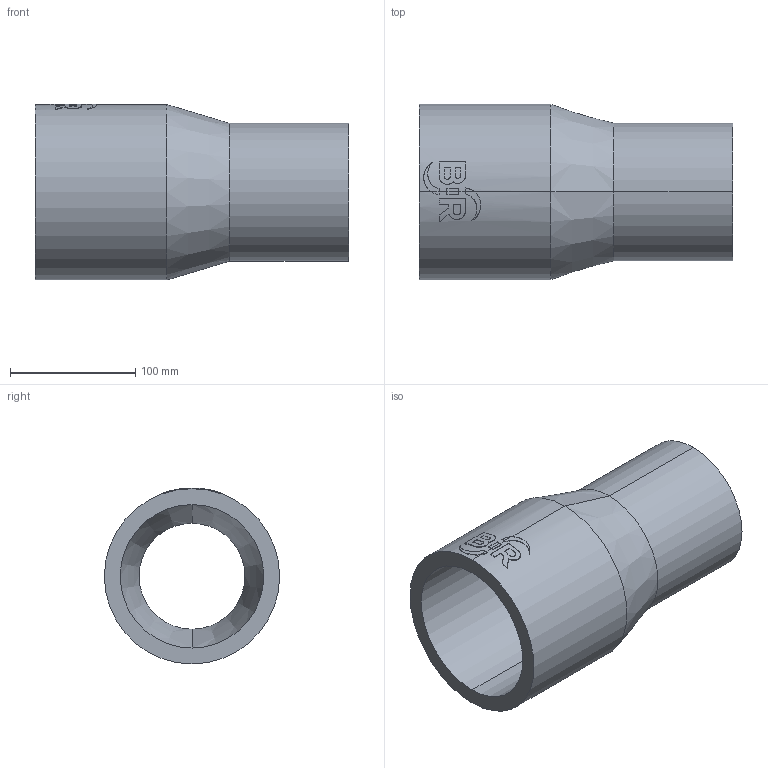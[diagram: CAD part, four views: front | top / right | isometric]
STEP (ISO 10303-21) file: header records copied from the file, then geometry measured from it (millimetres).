
FILE_DESCRIPTION (( 'STEP AP214' ), '1' );
FILE_NAME ('2323161415.STEP', '2018-07-20T10:18:44', ( '' ), ( '' ), 'SwSTEP 2.0', 'SolidWorks 2017', '' );
FILE_SCHEMA (( 'AUTOMOTIVE_DESIGN' ));
Length unit declared in the file: millimetre
Products named in the file (1): 2323161415
Bounding box: 250 x 140 x 140.46 mm (x, y, z)
Volume: 1135234.9 mm3; surface area: 187872.2 mm2
Topology: 1 solids, 1 shells, 63 faces, 160 edges, 104 vertices
Faces by surface type: cylinder 31, plane 28, cone 4
Entity records: 3229 total; most frequent: CARTESIAN_POINT 1020, ORIENTED_EDGE 320, DIRECTION 296, EDGE_CURVE 160, AXIS2_PLACEMENT_3D 112, VERTEX_POINT 104, LINE 72, VECTOR 72
